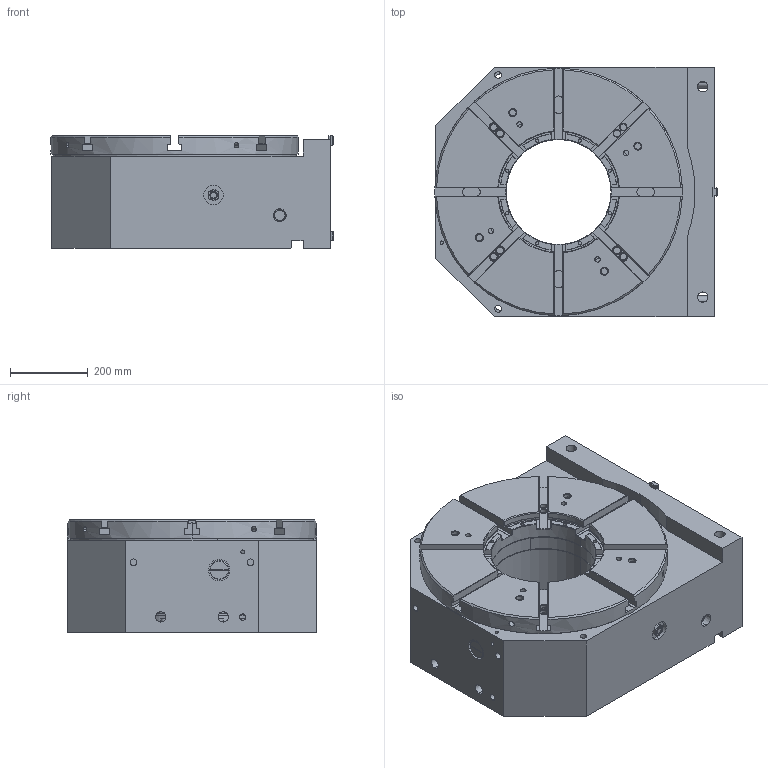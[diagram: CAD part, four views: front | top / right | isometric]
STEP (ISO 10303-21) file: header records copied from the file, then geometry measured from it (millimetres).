
FILE_DESCRIPTION (( 'STEP AP203' ), '1' );
FILE_NAME ('1524314　ST630-04.STEP', '2020-12-05T05:09:36', ( '' ), ( '' ), 'SwSTEP 2.0', 'SolidWorks 2019', '' );
FILE_SCHEMA (( 'CONFIG_CONTROL_DESIGN' ));
Length unit declared in the file: millimetre
Products named in the file (1): 1524314　ST630-04
Bounding box: 724.5 x 640 x 290 mm (x, y, z)
Surface area: 2339110.9 mm2 (no closed solid volume)
Topology: 0 solids, 19 shells, 701 faces, 2198 edges, 1458 vertices
Faces by surface type: cylinder 305, plane 263, cone 121, torus 8, sphere 4
Entity records: 25168 total; most frequent: CARTESIAN_POINT 5839, DIRECTION 4172, ORIENTED_EDGE 3664, EDGE_CURVE 2194, AXIS2_PLACEMENT_3D 1612, VERTEX_POINT 1458, VECTOR 948, LINE 948
